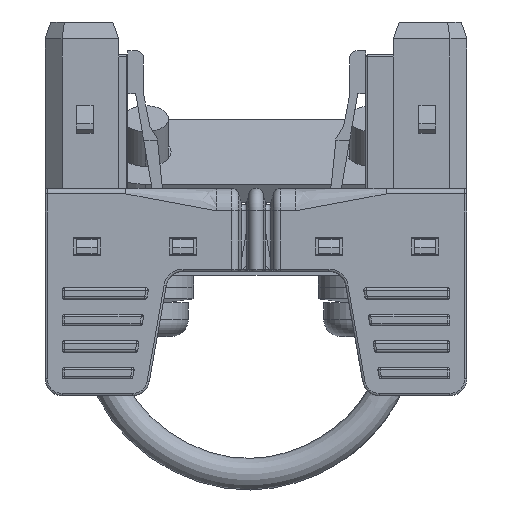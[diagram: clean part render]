
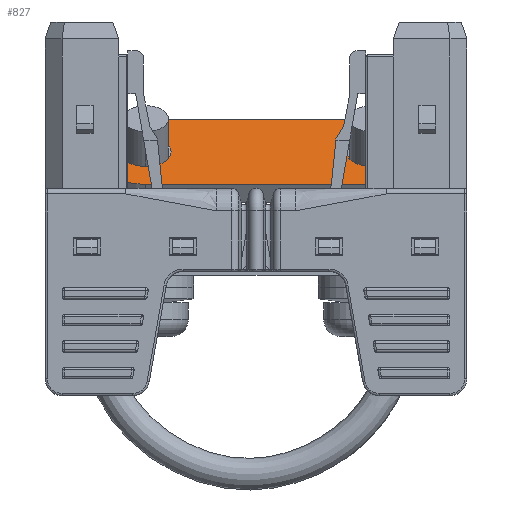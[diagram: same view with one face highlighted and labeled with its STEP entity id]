
A CAD part, front view. The second image highlights one B-rep face of the part: STEP entity #827.
In plain terms, the highlighted planar face has unit normal (0, -0.574, 0.819).
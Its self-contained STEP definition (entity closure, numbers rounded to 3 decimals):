
#676=CARTESIAN_POINT('',(-9.75,166.862,-143.452));
#677=DIRECTION('',(0.,-0.574,0.819));
#678=DIRECTION('',(1.,0.,0.));
#679=AXIS2_PLACEMENT_3D('',#676,#677,#678);
#681=CARTESIAN_POINT('',(-9.75,166.862,-143.452));
#682=DIRECTION('',(0.,-0.574,0.819));
#683=DIRECTION('',(-1.,0.,0.));
#684=AXIS2_PLACEMENT_3D('',#681,#682,#683);
#686=CARTESIAN_POINT('',(10.25,166.862,-143.452));
#687=DIRECTION('',(0.,-0.574,0.819));
#688=DIRECTION('',(1.,0.,0.));
#689=AXIS2_PLACEMENT_3D('',#686,#687,#688);
#691=CARTESIAN_POINT('',(10.25,166.862,-143.452));
#692=DIRECTION('',(0.,-0.574,0.819));
#693=DIRECTION('',(-1.,0.,0.));
#694=AXIS2_PLACEMENT_3D('',#691,#692,#693);
#696=CARTESIAN_POINT('',(10.25,166.862,-143.452));
#697=DIRECTION('',(0.,-0.574,0.819));
#698=DIRECTION('',(0.,-0.819,-0.574));
#699=AXIS2_PLACEMENT_3D('',#696,#697,#698);
#701=DIRECTION('',(-1.,0.,0.));
#702=VECTOR('',#701,20.);
#703=CARTESIAN_POINT('',(10.25,162.766,-146.32));
#704=LINE('',#703,#702);
#705=CARTESIAN_POINT('',(-9.75,166.862,-143.452));
#706=DIRECTION('',(0.,-0.574,0.819));
#707=DIRECTION('',(0.,0.819,0.574));
#708=AXIS2_PLACEMENT_3D('',#705,#706,#707);
#710=DIRECTION('',(1.,0.,0.));
#711=VECTOR('',#710,20.);
#712=CARTESIAN_POINT('',(-9.75,170.958,-140.584));
#713=LINE('',#712,#711);
#768=CARTESIAN_POINT('',(-7.5,166.862,-143.452));
#769=CARTESIAN_POINT('',(-12.,166.862,-143.452));
#770=VERTEX_POINT('',#768);
#771=VERTEX_POINT('',#769);
#772=CARTESIAN_POINT('',(12.5,166.862,-143.452));
#773=CARTESIAN_POINT('',(8.,166.862,-143.452));
#774=VERTEX_POINT('',#772);
#775=VERTEX_POINT('',#773);
#784=CARTESIAN_POINT('',(10.25,162.766,-146.32));
#785=CARTESIAN_POINT('',(10.25,170.958,-140.584));
#786=VERTEX_POINT('',#784);
#787=VERTEX_POINT('',#785);
#792=CARTESIAN_POINT('',(-9.75,170.958,-140.584));
#793=CARTESIAN_POINT('',(-9.75,162.766,-146.32));
#794=VERTEX_POINT('',#792);
#795=VERTEX_POINT('',#793);
#800=CARTESIAN_POINT('',(0.25,166.862,-143.452));
#801=DIRECTION('',(0.,0.574,-0.819));
#802=DIRECTION('',(1.,0.,0.));
#803=AXIS2_PLACEMENT_3D('',#800,#801,#802);
#804=PLANE('',#803);
#806=ORIENTED_EDGE('',*,*,#805,.F.);
#808=ORIENTED_EDGE('',*,*,#807,.T.);
#810=ORIENTED_EDGE('',*,*,#809,.F.);
#812=ORIENTED_EDGE('',*,*,#811,.T.);
#813=EDGE_LOOP('',(#806,#808,#810,#812));
#814=FACE_OUTER_BOUND('',#813,.F.);
#816=ORIENTED_EDGE('',*,*,#815,.T.);
#818=ORIENTED_EDGE('',*,*,#817,.T.);
#819=EDGE_LOOP('',(#816,#818));
#820=FACE_BOUND('',#819,.F.);
#822=ORIENTED_EDGE('',*,*,#821,.T.);
#824=ORIENTED_EDGE('',*,*,#823,.T.);
#825=EDGE_LOOP('',(#822,#824));
#826=FACE_BOUND('',#825,.F.);
#680=CIRCLE('',#679,2.25);
#685=CIRCLE('',#684,2.25);
#690=CIRCLE('',#689,2.25);
#695=CIRCLE('',#694,2.25);
#700=CIRCLE('',#699,5.);
#709=CIRCLE('',#708,5.);
#805=EDGE_CURVE('',#786,#787,#700,.T.);
#807=EDGE_CURVE('',#786,#795,#704,.T.);
#809=EDGE_CURVE('',#794,#795,#709,.T.);
#811=EDGE_CURVE('',#794,#787,#713,.T.);
#815=EDGE_CURVE('',#774,#775,#690,.T.);
#817=EDGE_CURVE('',#775,#774,#695,.T.);
#821=EDGE_CURVE('',#770,#771,#680,.T.);
#823=EDGE_CURVE('',#771,#770,#685,.T.);
#827=ADVANCED_FACE('',(#814,#820,#826),#804,.F.);
